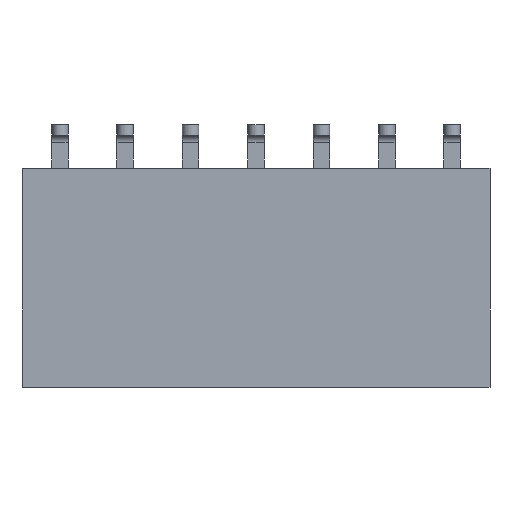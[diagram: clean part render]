
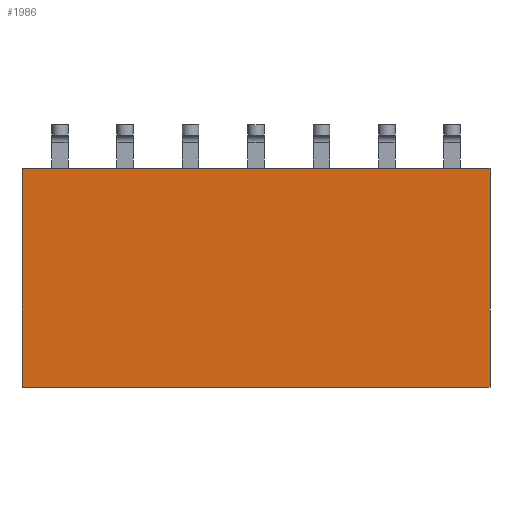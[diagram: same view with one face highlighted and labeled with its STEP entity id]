
A CAD part, front view. The second image highlights one B-rep face of the part: STEP entity #1986.
In plain terms, the highlighted planar face has unit normal (0, -1, 0).
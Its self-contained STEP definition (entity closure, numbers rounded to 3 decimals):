
#147=FACE_OUTER_BOUND('',#262,.T.);
#262=EDGE_LOOP('',(#1730,#1731,#1732,#1733));
#358=LINE('',#2793,#592);
#512=LINE('',#3172,#746);
#541=LINE('',#3242,#775);
#546=LINE('',#3252,#780);
#592=VECTOR('',#2247,10.);
#746=VECTOR('',#2603,10.);
#775=VECTOR('',#2666,10.);
#780=VECTOR('',#2673,10.);
#820=VERTEX_POINT('',#2790);
#821=VERTEX_POINT('',#2792);
#944=VERTEX_POINT('',#3169);
#945=VERTEX_POINT('',#3171);
#1016=EDGE_CURVE('',#820,#821,#358,.T.);
#1200=EDGE_CURVE('',#945,#944,#512,.T.);
#1235=EDGE_CURVE('',#820,#945,#541,.T.);
#1240=EDGE_CURVE('',#821,#944,#546,.T.);
#1730=ORIENTED_EDGE('',*,*,#1235,.T.);
#1731=ORIENTED_EDGE('',*,*,#1200,.T.);
#1732=ORIENTED_EDGE('',*,*,#1240,.F.);
#1733=ORIENTED_EDGE('',*,*,#1016,.F.);
#1878=PLANE('',#2156);
#1986=ADVANCED_FACE('',(#147),#1878,.T.);
#2156=AXIS2_PLACEMENT_3D('',#3251,#2671,#2672);
#2247=DIRECTION('',(0.,0.,1.));
#2603=DIRECTION('',(0.,0.,1.));
#2666=DIRECTION('',(1.,0.,0.));
#2671=DIRECTION('center_axis',(0.,-1.,0.));
#2672=DIRECTION('ref_axis',(1.,0.,0.));
#2673=DIRECTION('',(1.,0.,0.));
#2790=CARTESIAN_POINT('',(-0.1,0.,0.));
#2792=CARTESIAN_POINT('',(-0.1,0.,8.5));
#2793=CARTESIAN_POINT('',(-0.1,0.,0.));
#3169=CARTESIAN_POINT('',(18.08,0.,8.5));
#3171=CARTESIAN_POINT('',(18.08,0.,0.));
#3172=CARTESIAN_POINT('',(18.08,0.,0.));
#3242=CARTESIAN_POINT('',(-10.16,0.,0.));
#3251=CARTESIAN_POINT('Origin',(-7.62,0.,0.));
#3252=CARTESIAN_POINT('',(-10.16,0.,8.5));
